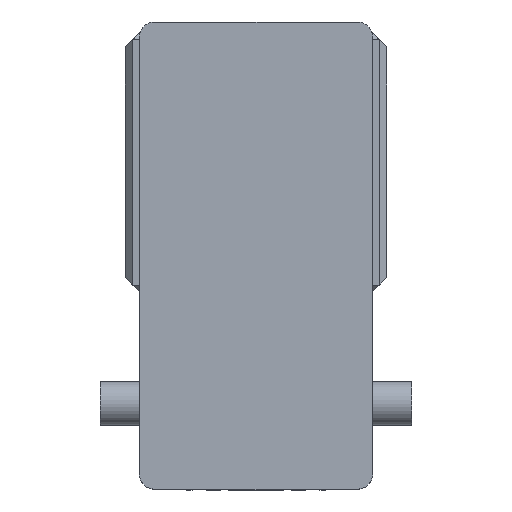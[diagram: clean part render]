
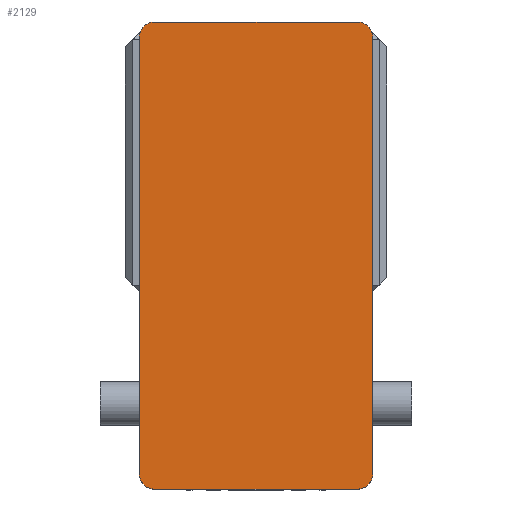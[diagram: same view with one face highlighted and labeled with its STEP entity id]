
A CAD part, left-side view. The second image highlights one B-rep face of the part: STEP entity #2129.
In plain terms, the highlighted planar face has unit normal (-1, 0, 0) as drawn and (0, 0, 1) by its records, which use the part's own axes.
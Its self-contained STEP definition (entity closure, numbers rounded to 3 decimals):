
#25 = DIRECTION ( 'NONE',  ( -1., 0., 0. ) ) ;
#146 = CARTESIAN_POINT ( 'NONE',  ( -75., 150., 105. ) ) ;
#1234 = CIRCLE ( 'NONE', #4367, 10. ) ;
#1304 = CARTESIAN_POINT ( 'NONE',  ( 75., 150., 105. ) ) ;
#1325 = CIRCLE ( 'NONE', #4415, 10. ) ;
#1345 = CIRCLE ( 'NONE', #4393, 10. ) ;
#1380 = CIRCLE ( 'NONE', #4456, 10. ) ;
#1418 = VERTEX_POINT ( 'NONE', #18208 ) ;
#1454 = VECTOR ( 'NONE', #13335, 1000. ) ;
#1529 = DIRECTION ( 'NONE',  ( 0., 1., 0. ) ) ;
#1540 = LINE ( 'NONE', #14034, #1454 ) ;
#1713 = ORIENTED_EDGE ( 'NONE', *, *, #7846, .T. ) ;
#1903 = VECTOR ( 'NONE', #16817, 1000. ) ;
#1958 = LINE ( 'NONE', #17586, #1903 ) ;
#2129 = ADVANCED_FACE ( 'NONE', ( #12063 ), #7050, .T. ) ;
#2327 = VECTOR ( 'NONE', #25, 1000. ) ;
#2376 = LINE ( 'NONE', #146, #2327 ) ;
#2740 = VERTEX_POINT ( 'NONE', #5818 ) ;
#2808 = VECTOR ( 'NONE', #1529, 1000. ) ;
#2831 = LINE ( 'NONE', #1304, #2808 ) ;
#2865 = ORIENTED_EDGE ( 'NONE', *, *, #7944, .T. ) ;
#3544 = ORIENTED_EDGE ( 'NONE', *, *, #7160, .T. ) ;
#3633 = CARTESIAN_POINT ( 'NONE',  ( -65., 150., 105. ) ) ;
#4367 = AXIS2_PLACEMENT_3D ( 'NONE', #9888, #9468, #9595 ) ;
#4393 = AXIS2_PLACEMENT_3D ( 'NONE', #10943, #10562, #10499 ) ;
#4415 = AXIS2_PLACEMENT_3D ( 'NONE', #11231, #11166, #11120 ) ;
#4456 = AXIS2_PLACEMENT_3D ( 'NONE', #11617, #11593, #11368 ) ;
#5818 = CARTESIAN_POINT ( 'NONE',  ( 65., -150., 105. ) ) ;
#6015 = VERTEX_POINT ( 'NONE', #8009 ) ;
#6720 = ORIENTED_EDGE ( 'NONE', *, *, #7879, .T. ) ;
#6986 = DIRECTION ( 'NONE',  ( 1., 0., 0. ) ) ;
#7004 = DIRECTION ( 'NONE',  ( 0., 0., 1. ) ) ;
#7010 = CARTESIAN_POINT ( 'NONE',  ( 0., 0., 105. ) ) ;
#7050 = PLANE ( 'NONE',  #11627 ) ;
#7160 = EDGE_CURVE ( 'NONE', #8590, #10117, #2831, .T. ) ;
#7380 = ORIENTED_EDGE ( 'NONE', *, *, #7394, .T. ) ;
#7394 = EDGE_CURVE ( 'NONE', #1418, #8197, #2376, .T. ) ;
#7554 = EDGE_CURVE ( 'NONE', #11324, #6015, #1958, .T. ) ;
#7622 = ORIENTED_EDGE ( 'NONE', *, *, #7912, .T. ) ;
#7779 = EDGE_CURVE ( 'NONE', #10934, #2740, #1540, .T. ) ;
#7846 = EDGE_CURVE ( 'NONE', #2740, #8590, #1380, .T. ) ;
#7879 = EDGE_CURVE ( 'NONE', #10117, #1418, #1325, .T. ) ;
#7912 = EDGE_CURVE ( 'NONE', #8197, #11324, #1345, .T. ) ;
#7944 = EDGE_CURVE ( 'NONE', #6015, #10934, #1234, .T. ) ;
#8009 = CARTESIAN_POINT ( 'NONE',  ( -75., -140., 105. ) ) ;
#8197 = VERTEX_POINT ( 'NONE', #3633 ) ;
#8590 = VERTEX_POINT ( 'NONE', #19623 ) ;
#9468 = DIRECTION ( 'NONE',  ( 0., 0., 1. ) ) ;
#9595 = DIRECTION ( 'NONE',  ( 1., 0., 0. ) ) ;
#9888 = CARTESIAN_POINT ( 'NONE',  ( -65., -140., 105. ) ) ;
#10117 = VERTEX_POINT ( 'NONE', #13897 ) ;
#10499 = DIRECTION ( 'NONE',  ( 1., 0., 0. ) ) ;
#10562 = DIRECTION ( 'NONE',  ( 0., 0., 1. ) ) ;
#10934 = VERTEX_POINT ( 'NONE', #18941 ) ;
#10943 = CARTESIAN_POINT ( 'NONE',  ( -65., 140., 105. ) ) ;
#11120 = DIRECTION ( 'NONE',  ( 1., 0., 0. ) ) ;
#11166 = DIRECTION ( 'NONE',  ( 0., 0., 1. ) ) ;
#11231 = CARTESIAN_POINT ( 'NONE',  ( 65., 140., 105. ) ) ;
#11324 = VERTEX_POINT ( 'NONE', #16694 ) ;
#11368 = DIRECTION ( 'NONE',  ( 1., 0., 0. ) ) ;
#11593 = DIRECTION ( 'NONE',  ( 0., 0., 1. ) ) ;
#11617 = CARTESIAN_POINT ( 'NONE',  ( 65., -140., 105. ) ) ;
#11627 = AXIS2_PLACEMENT_3D ( 'NONE', #7010, #7004, #6986 ) ;
#12063 = FACE_OUTER_BOUND ( 'NONE', #15573, .T. ) ;
#13335 = DIRECTION ( 'NONE',  ( 1., 0., 0. ) ) ;
#13897 = CARTESIAN_POINT ( 'NONE',  ( 75., 140., 105. ) ) ;
#14034 = CARTESIAN_POINT ( 'NONE',  ( -75., -150., 105. ) ) ;
#15573 = EDGE_LOOP ( 'NONE', ( #18457, #1713, #3544, #6720, #7380, #7622, #19296, #2865 ) ) ;
#16694 = CARTESIAN_POINT ( 'NONE',  ( -75., 140., 105. ) ) ;
#16817 = DIRECTION ( 'NONE',  ( 0., -1., 0. ) ) ;
#17586 = CARTESIAN_POINT ( 'NONE',  ( -75., 150., 105. ) ) ;
#18208 = CARTESIAN_POINT ( 'NONE',  ( 65., 150., 105. ) ) ;
#18457 = ORIENTED_EDGE ( 'NONE', *, *, #7779, .T. ) ;
#18941 = CARTESIAN_POINT ( 'NONE',  ( -65., -150., 105. ) ) ;
#19296 = ORIENTED_EDGE ( 'NONE', *, *, #7554, .T. ) ;
#19623 = CARTESIAN_POINT ( 'NONE',  ( 75., -140., 105. ) ) ;
